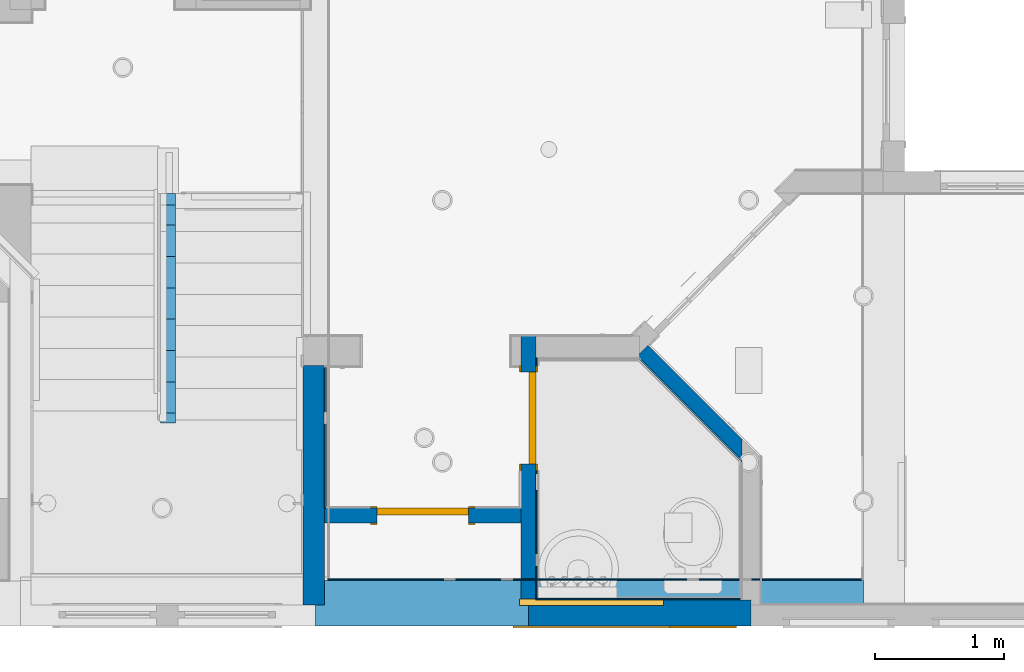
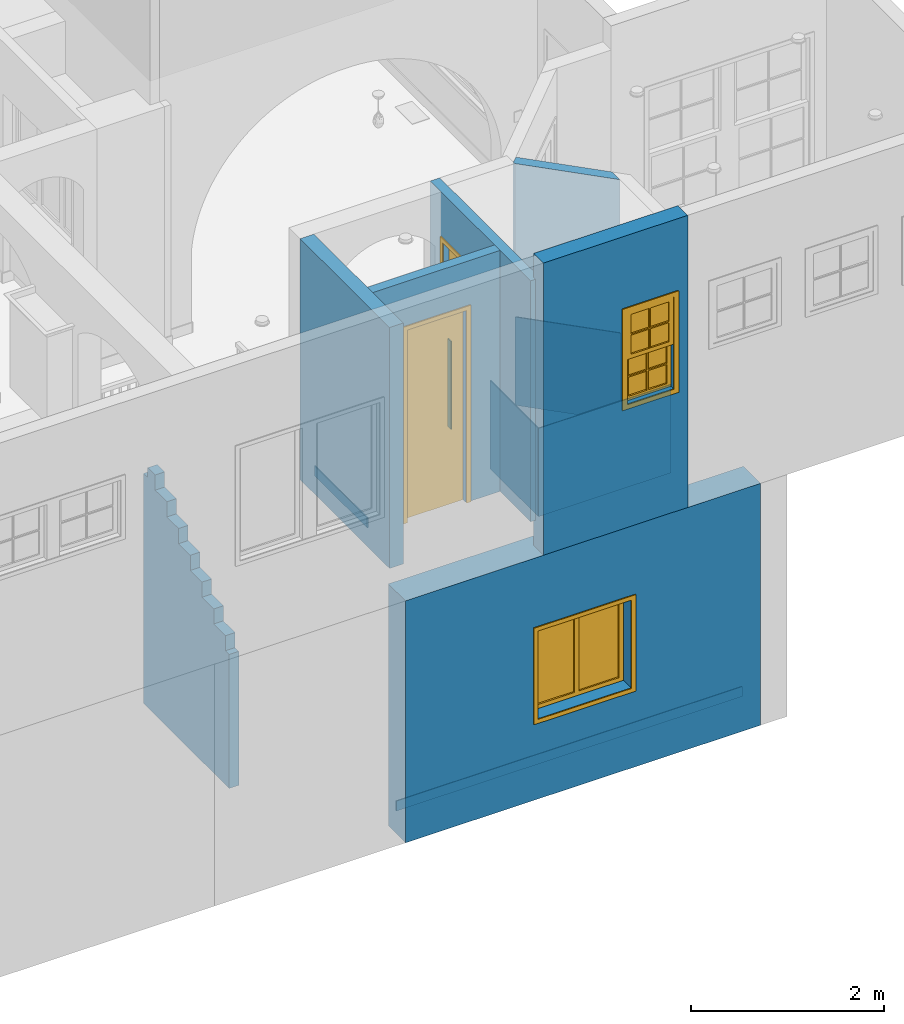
# One storey, part 5 of 81: 13 walls, 2 doors, 2 windows, 5 openings.
"""IFC2X3 building model written with IfcOpenShell, lengths in feet."""

from ifc_helpers import new_model, entity, si_unit, converted_unit, derived_unit, direction, frame, frame_2d, origin, origin_2d_with_axis, place, context, subcontext, project, spatial, polyline, rectangle, outline, extrude, clip, bounded_halfspace, source, transform, mapped, material, material_list, layer, layer_set, layer_usage, type_object, type_shapes, element, fill, save


model = new_model("IFC2X3")

# Units and contexts
model_context = context("Model", 3, precision=0.0001, world=origin(), true_north=direction((6.12303176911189e-17, 1.0)))
body_context = subcontext(model_context, "Body", "Model", "MODEL_VIEW")
ifc_project = project(units=[converted_unit("LENGTHUNIT", "FOOT", entity("IfcRatioMeasure", 0.3048), si_unit("LENGTHUNIT", "METRE"), dimensions=[1, 0, 0, 0, 0, 0, 0]), converted_unit("AREAUNIT", "SQUARE FOOT", entity("IfcRatioMeasure", 0.09290304), si_unit("AREAUNIT", "SQUARE_METRE"), dimensions=[2, 0, 0, 0, 0, 0, 0]), converted_unit("VOLUMEUNIT", "CUBIC FOOT", entity("IfcRatioMeasure", 0.028316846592), si_unit("VOLUMEUNIT", "CUBIC_METRE"), dimensions=[3, 0, 0, 0, 0, 0, 0]), converted_unit("PLANEANGLEUNIT", "DEGREE", entity("IfcRatioMeasure", 0.0174532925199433), si_unit("PLANEANGLEUNIT", "RADIAN"), dimensions=[0, 0, 0, 0, 0, 0, 0]), si_unit("MASSUNIT", "GRAM", prefix="KILO"), derived_unit("MASSDENSITYUNIT", [(si_unit("MASSUNIT", "GRAM", prefix="KILO"), 1), (si_unit("LENGTHUNIT", "METRE"), -3)]), derived_unit("MOMENTOFINERTIAUNIT", [(si_unit("LENGTHUNIT", "METRE"), 4)]), si_unit("TIMEUNIT", "SECOND"), si_unit("FREQUENCYUNIT", "HERTZ"), si_unit("THERMODYNAMICTEMPERATUREUNIT", "DEGREE_CELSIUS"), derived_unit("THERMALTRANSMITTANCEUNIT", [(si_unit("MASSUNIT", "GRAM", prefix="KILO"), 1), (si_unit("THERMODYNAMICTEMPERATUREUNIT", "KELVIN"), -1), (si_unit("TIMEUNIT", "SECOND"), -3)]), derived_unit("VOLUMETRICFLOWRATEUNIT", [(si_unit("LENGTHUNIT", "METRE"), 3), (si_unit("TIMEUNIT", "SECOND"), -1)]), si_unit("ELECTRICCURRENTUNIT", "AMPERE"), si_unit("ELECTRICVOLTAGEUNIT", "VOLT"), si_unit("POWERUNIT", "WATT"), si_unit("FORCEUNIT", "NEWTON"), si_unit("ILLUMINANCEUNIT", "LUX"), si_unit("LUMINOUSFLUXUNIT", "LUMEN"), si_unit("LUMINOUSINTENSITYUNIT", "CANDELA"), derived_unit("USERDEFINED", [(si_unit("MASSUNIT", "GRAM", prefix="KILO"), -1), (si_unit("LENGTHUNIT", "METRE"), -2), (si_unit("TIMEUNIT", "SECOND"), 3), (si_unit("LUMINOUSFLUXUNIT", "LUMEN"), 1)]), derived_unit("LINEARVELOCITYUNIT", [(si_unit("LENGTHUNIT", "METRE"), 1), (si_unit("TIMEUNIT", "SECOND"), -1)]), si_unit("PRESSUREUNIT", "PASCAL"), derived_unit("USERDEFINED", [(si_unit("LENGTHUNIT", "METRE"), -2), (si_unit("MASSUNIT", "GRAM", prefix="KILO"), 1), (si_unit("TIMEUNIT", "SECOND"), -2)]), derived_unit("LINEARFORCEUNIT", [(si_unit("MASSUNIT", "GRAM", prefix="KILO"), 1), (si_unit("LENGTHUNIT", "METRE"), 1), (si_unit("TIMEUNIT", "SECOND"), -2), (si_unit("LENGTHUNIT", "METRE"), -1)]), derived_unit("PLANARFORCEUNIT", [(si_unit("MASSUNIT", "GRAM", prefix="KILO"), 1), (si_unit("LENGTHUNIT", "METRE"), 1), (si_unit("TIMEUNIT", "SECOND"), -2), (si_unit("LENGTHUNIT", "METRE"), -2)])], contexts=[model_context])

# Site, building, storey
site_placement = place(None, origin())
site = spatial("IfcSite", under=ifc_project, at=site_placement, Name="Default", CompositionType="ELEMENT")
building_placement = place(site_placement, origin())
building = spatial("IfcBuilding", under=site, at=building_placement, CompositionType="ELEMENT")
storey_placement = place(building_placement, origin())
storey = spatial("IfcBuildingStorey", under=building, at=storey_placement, Name="First floor", CompositionType="ELEMENT", Elevation=0.0)

# Wall
ifc_material_1 = material(Name="Default New Material")
ifc_layer_1 = layer(ifc_material_1, 0.541666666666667)
ifc_layer_set_1 = layer_set([ifc_layer_1], Name="Basic Wall:Wall_6.5\"")
ifc_layer_usage_1 = layer_usage(ifc_layer_set_1, "AXIS2", "NEGATIVE", 0.270833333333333)
wall_type_1 = type_object("IfcWallType", Name="Basic Wall:Wall_6.5\"", PredefinedType="STANDARD", material=ifc_layer_set_1)
wall_1_placement = place(storey_placement, frame((20.6458333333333, 6.62500000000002, 10.6666666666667), z_axis=(0.0, 0.0, 1.0), x_axis=(0.0, -1.0, 0.0)))
element("IfcWallStandardCase", 1, at=wall_1_placement, inside=storey, type_object=wall_type_1, material=ifc_layer_usage_1, Name="Basic Wall:Wall_6.5\"", ObjectType="Basic Wall:Wall_6.5\"", context=body_context, shape_type="SweptSolid", body=[
    extrude(rectangle(XDim=6.08333333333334, YDim=0.541666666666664, at=frame_2d((3.04166666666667, 0.0), x_axis=(-1.0, 0.0))), origin(), (0.0, 0.0, 1.0), 10.0),
])

# Wall, opening, window
ifc_layer_2 = layer(ifc_material_1, 0.666666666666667)
ifc_layer_set_2 = layer_set([ifc_layer_2], Name="Basic Wall:Wall_8\"")
ifc_layer_usage_2 = layer_usage(ifc_layer_set_2, "AXIS2", "NEGATIVE", 0.333333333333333)
wall_type_2 = type_object("IfcWallType", Name="Basic Wall:Wall_8\"", PredefinedType="STANDARD", material=ifc_layer_set_2)
wall_2_placement = place(storey_placement, frame((31.7708333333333, 0.333333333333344, 9.54166666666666), z_axis=(0.0, 0.0, 1.0), x_axis=(-1.0, 0.0, 0.0)))
wall_2 = element("IfcWallStandardCase", 2, at=wall_2_placement, inside=storey, type_object=wall_type_2, material=ifc_layer_usage_2, Name="Basic Wall:Wall_8\"", ObjectType="Basic Wall:Wall_8\"", context=body_context, shape_type="SweptSolid", body=[
    extrude(rectangle(XDim=5.66666666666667, YDim=0.666666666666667, at=frame_2d((2.83333333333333, 0.0), x_axis=(-1.0, 0.0))), origin(), (0.0, 0.0, 1.0), 12.125),
])
opening_1_placement = place(wall_2_placement, frame((0.5625, -0.333333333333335, 5.125)))
opening_1 = element("IfcOpeningElement", 3, at=opening_1_placement, cuts=wall_2, Name="Window_4:1'-10\" X 3'-10\":1", ObjectType="Opening", context=body_context, shape_type="SweptSolid", body=[
    extrude(rectangle(XDim=3.83333333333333, YDim=1.83333333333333, at=frame_2d((1.91666666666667, 0.916666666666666), x_axis=(-1.0, 0.0))), frame((0.0, 0.0, 0.0), z_axis=(0.0, 1.0, 0.0), x_axis=(0.0, 0.0, 1.0)), (0.0, 0.0, 1.0), 0.666666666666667),
])
ifc_material_2 = material(Name="Glass")
ifc_material_list_1 = material_list([ifc_material_2, ifc_material_1])
ifc_material_3 = material(Name="Sash")
ifc_material_4 = material(Name="Trim")
ifc_material_list_2 = material_list([ifc_material_3, ifc_material_4, ifc_material_4, ifc_material_2])
window_style_1 = type_object("IfcWindowStyle", Name="Window_4:1'-10\" X 3'-10\"", ConstructionType="NOTDEFINED", OperationType="NOTDEFINED", ParameterTakesPrecedence=False, Sizeable=False, material=ifc_material_list_2)
shared_shape_1 = source(origin(), body_context, "Body", "SweptSolid", [
    extrude(rectangle(XDim=0.725260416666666, YDim=0.0435871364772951, at=origin_2d_with_axis()), frame((0.529296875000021, 0.584293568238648, 2.8515625)), (0.0, 0.0, 1.0), 0.815104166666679),
    extrude(rectangle(XDim=0.725260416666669, YDim=0.0435871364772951, at=frame_2d((5.55111512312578e-17, 0.0), x_axis=(1.0, 0.0))), frame((1.30403645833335, 0.584293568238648, 2.8515625)), (0.0, 0.0, 1.0), 0.815104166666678),
    extrude(rectangle(XDim=0.725260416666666, YDim=0.0435871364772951, at=origin_2d_with_axis()), frame((0.529296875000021, 0.584293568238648, 2.01041666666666)), (0.0, 0.0, 1.0), 0.791666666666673),
    extrude(rectangle(XDim=0.72526041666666, YDim=0.0435871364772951, at=origin_2d_with_axis()), frame((1.30403645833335, 0.584293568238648, 2.01041666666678)), (0.0, 0.0, 1.0), 0.791666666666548),
    extrude(outline(polyline([(-0.916666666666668, -0.994791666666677), (0.916666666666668, -0.994791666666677), (0.916666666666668, 0.994791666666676), (-0.916666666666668, 0.994791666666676), (-0.916666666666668, -0.994791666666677)]), holes=[polyline([(0.0247395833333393, -0.828125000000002), (0.0247395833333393, -0.0130208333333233), (0.750000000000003, -0.0130208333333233), (0.750000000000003, -0.828125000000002), (0.0247395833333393, -0.828125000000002)]), polyline([(0.0247395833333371, 0.828125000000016), (0.750000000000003, 0.828125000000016), (0.750000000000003, 0.0364583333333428), (0.0247395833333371, 0.0364583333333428), (0.0247395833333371, 0.828125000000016)]), polyline([(-0.74999999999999, -0.0130208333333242), (-0.0247395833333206, -0.0130208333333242), (-0.0247395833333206, -0.828125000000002), (-0.74999999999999, -0.828125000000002), (-0.74999999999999, -0.0130208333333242)]), polyline([(-0.74999999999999, 0.828124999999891), (-0.0247395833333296, 0.828124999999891), (-0.0247395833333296, 0.0364583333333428), (-0.74999999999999, 0.0364583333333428), (-0.74999999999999, 0.828124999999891)])]), frame((0.916666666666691, 0.666666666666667, 2.83854166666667), z_axis=(0.0, -1.0, 0.0), x_axis=(-1.0, 0.0, 0.0)), (0.0, 0.0, 1.0), 0.166666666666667),
    extrude(rectangle(XDim=0.72526041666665, YDim=0.0416666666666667, at=frame_2d((0.0, 1.38777878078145e-17), x_axis=(1.0, 0.0))), frame((1.30403645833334, 0.416666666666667, 0.166666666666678), z_axis=(0.0, 0.0, 1.0), x_axis=(-1.0, 0.0, 0.0)), (0.0, 0.0, 1.0), 0.791666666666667),
    extrude(rectangle(XDim=0.725260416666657, YDim=0.0416666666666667, at=frame_2d((0.0, 1.38777878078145e-17), x_axis=(1.0, 0.0))), frame((0.52929687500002, 0.416666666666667, 1.00781250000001), z_axis=(0.0, 0.0, 1.0), x_axis=(-1.0, 0.0, 0.0)), (0.0, 0.0, 1.0), 0.835937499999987),
    extrude(rectangle(XDim=0.725260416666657, YDim=0.0416666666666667, at=frame_2d((0.0, 1.38777878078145e-17), x_axis=(1.0, 0.0))), frame((0.52929687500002, 0.416666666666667, 0.166666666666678), z_axis=(0.0, 0.0, 1.0), x_axis=(-1.0, 0.0, 0.0)), (0.0, 0.0, 1.0), 0.791666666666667),
    extrude(rectangle(XDim=0.72526041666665, YDim=0.0416666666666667, at=frame_2d((0.0, 1.38777878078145e-17), x_axis=(1.0, 0.0))), frame((1.30403645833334, 0.416666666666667, 1.00781250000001), z_axis=(0.0, 0.0, 1.0), x_axis=(-1.0, 0.0, 0.0)), (0.0, 0.0, 1.0), 0.835937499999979),
    extrude(outline(polyline([(-0.91666666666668, -1.00520833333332), (0.91666666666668, -1.00520833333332), (0.91666666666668, 1.00520833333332), (-0.91666666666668, 1.00520833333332), (-0.91666666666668, -1.00520833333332)]), holes=[polyline([(-0.749999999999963, -0.0026041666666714), (-0.0247395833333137, -0.0026041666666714), (-0.0247395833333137, -0.83854166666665), (-0.749999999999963, -0.83854166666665), (-0.749999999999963, -0.0026041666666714)]), polyline([(0.0247395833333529, 0.838541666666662), (0.75000000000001, 0.838541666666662), (0.75000000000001, 0.0468749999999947), (0.0247395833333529, 0.0468749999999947), (0.0247395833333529, 0.838541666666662)]), polyline([(-0.749999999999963, 0.838541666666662), (-0.0247395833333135, 0.838541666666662), (-0.0247395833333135, 0.0468749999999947), (-0.749999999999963, 0.0468749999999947), (-0.749999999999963, 0.838541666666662)]), polyline([(0.0247395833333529, -0.83854166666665), (0.0247395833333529, -0.00260416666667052), (0.75000000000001, -0.00260416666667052), (0.75000000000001, -0.83854166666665), (0.0247395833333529, -0.83854166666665)])]), frame((0.916666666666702, 0.5, 1.00520833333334), z_axis=(0.0, -1.0, 0.0), x_axis=(-1.0, 0.0, 0.0)), (0.0, 0.0, 1.0), 0.166666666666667),
    extrude(outline(polyline([(-1.10416666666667, -2.10416666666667), (1.10416666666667, -2.10416666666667), (1.10416666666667, 2.10416666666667), (-1.10416666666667, 2.10416666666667), (-1.10416666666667, -2.10416666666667)]), holes=[polyline([(-0.916666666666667, -1.91666666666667), (-0.916666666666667, 1.91666666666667), (0.916666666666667, 1.91666666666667), (0.916666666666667, -1.91666666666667), (-0.916666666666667, -1.91666666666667)])]), frame((0.916666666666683, 0.0, 1.91666666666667), z_axis=(0.0, -1.0, 0.0), x_axis=(1.0, 0.0, 0.0)), (0.0, 0.0, 1.0), 0.0416666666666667),
    extrude(outline(polyline([(-1.10416666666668, -2.10416666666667), (1.10416666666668, -2.10416666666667), (1.10416666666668, 2.10416666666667), (-1.10416666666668, 2.10416666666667), (-1.10416666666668, -2.10416666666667)]), holes=[polyline([(-0.916666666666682, -1.91666666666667), (-0.916666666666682, 1.91666666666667), (0.916666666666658, 1.91666666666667), (0.916666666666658, -1.91666666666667), (-0.916666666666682, -1.91666666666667)])]), frame((0.916666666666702, 0.708333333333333, 1.91666666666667), z_axis=(0.0, -1.0, 0.0), x_axis=(1.0, 0.0, 0.0)), (0.0, 0.0, 1.0), 0.0416666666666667),
])
type_shapes(window_style_1, [shared_shape_1])
window_1_placement = place(opening_1_placement, origin())
window_1 = element("IfcWindow", 4, at=window_1_placement, inside=storey, type_object=window_style_1, material=ifc_material_list_1, Name="Window_4:1'-10\" X 3'-10\"", ObjectType="Window_4:1'-10\" X 3'-10\"", OverallHeight=3.83333333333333, OverallWidth=1.83333333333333, context=body_context, shape_type="MappedRepresentation", body=[
    mapped(shared_shape_1, transform((0.0, 0.0, 0.0), scale=1.0)),
])
fill(opening_1, window_1)

# Wall
ifc_layer_3 = layer(ifc_material_1, 0.375)
ifc_layer_set_3 = layer_set([ifc_layer_3], Name="Basic Wall:Wall_4.5\"")
ifc_layer_usage_3 = layer_usage(ifc_layer_set_3, "AXIS2", "NEGATIVE", 0.1875)
wall_type_3 = type_object("IfcWallType", Name="Basic Wall:Wall_4.5\"", PredefinedType="STANDARD", material=ifc_layer_set_3)
wall_3_placement = place(storey_placement, frame((29.0138879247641, 7.01261369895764, 10.6666666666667), z_axis=(0.0, 0.0, 1.0), x_axis=(0.707106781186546, -0.707106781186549, 0.0)))
element("IfcWallStandardCase", 5, at=wall_3_placement, inside=storey, type_object=wall_type_3, material=ifc_layer_usage_3, Name="Basic Wall:Wall_4.5\"", ObjectType="Basic Wall:Wall_4.5\"", context=body_context, shape_type="Clipping", body=[
    clip(clip(clip(extrude(outline(polyline([(3.38731897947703, 0.1875), (0.0, 0.1875), (0.000817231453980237, -0.0982175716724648), (-0.023173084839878, -0.0982861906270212), (0.0660407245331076, -0.187500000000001), (0.124966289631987, -0.1875), (3.76231897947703, -0.1875), (3.38731897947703, 0.1875)])), origin(), (0.0, 0.0, 1.0), 10.0), bounded_halfspace(frame((0.000817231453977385, -0.0982175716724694, 0.0), z_axis=(0.999995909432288, 0.00286026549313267, 0.0), x_axis=(-0.00286026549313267, 0.999995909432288, 0.0)), True, frame((0.000817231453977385, -0.0982175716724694, 0.0), z_axis=(0.999995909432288, 0.00286026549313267, 0.0), x_axis=(-0.00286026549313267, 0.999995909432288, 0.0)), polyline([(0.0, 0.0), (0.285718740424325, 0.0), (0.285718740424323, 10.0), (0.0, 10.0), (0.0, 0.0)]))), bounded_halfspace(frame((0.000817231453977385, -0.0982175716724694, 10.0), z_axis=(0.00286026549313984, -0.999995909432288, 0.0), x_axis=(0.999995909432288, 0.00286026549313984, 0.0)), True, frame((0.000817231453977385, -0.0982175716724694, 10.0), z_axis=(0.00286026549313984, -0.999995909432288, 0.0), x_axis=(0.999995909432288, 0.00286026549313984, 0.0)), polyline([(0.0, 0.0), (-0.0239904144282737, 0.0), (-0.0239904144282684, -10.0), (0.0, -10.0), (0.0, 0.0)]))), bounded_halfspace(frame((0.0660407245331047, -0.187499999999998, 0.0), z_axis=(0.707106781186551, 0.707106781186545, 0.0), x_axis=(-0.707106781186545, 0.707106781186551, 0.0)), True, frame((0.0660407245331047, -0.187499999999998, 0.0), z_axis=(0.707106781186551, 0.707106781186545, 0.0), x_axis=(-0.707106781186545, 0.707106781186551, 0.0)), polyline([(0.0, 0.0), (0.126167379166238, 0.0), (0.126167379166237, 10.0), (0.0, 10.0), (0.0, 0.0)]))),
])

# Wall, opening, door
ifc_layer_usage_4 = layer_usage(ifc_layer_set_3, "AXIS2", "POSITIVE", -0.1875)
wall_4_placement = place(storey_placement, frame((26.1041666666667, 0.541666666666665, 10.6666666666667), z_axis=(0.0, 0.0, 1.0), x_axis=(0.0, 1.0, 0.0)))
wall_4 = element("IfcWallStandardCase", 6, at=wall_4_placement, inside=storey, type_object=wall_type_3, material=ifc_layer_usage_4, Name="Basic Wall:Wall_4.5\"", ObjectType="Basic Wall:Wall_4.5\"", context=body_context, shape_type="SweptSolid", body=[
    extrude(outline(polyline([(0.125000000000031, -0.1875), (6.29166666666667, -0.187500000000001), (6.83333333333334, -0.1875), (6.83333333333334, 0.1875), (6.08333333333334, 0.187499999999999), (2.45833333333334, 0.1875), (2.08333333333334, 0.1875), (0.0, 0.1875), (0.0, 0.0), (0.12500000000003, 0.0), (0.125000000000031, -0.1875)])), origin(), (0.0, 0.0, 1.0), 10.0),
])
opening_2_placement = place(wall_4_placement, frame((5.91666666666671, 0.187499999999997, 0.0)))
opening_2 = element("IfcOpeningElement", 7, at=opening_2_placement, cuts=wall_4, Name="Door_1:2'-4\" X 8'-0\":1", ObjectType="Opening", context=body_context, shape_type="SweptSolid", body=[
    extrude(rectangle(XDim=2.33333333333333, YDim=8.0, at=frame_2d((4.0, 1.16666666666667), x_axis=(0.0, -1.0))), frame((0.0, 0.0, 0.0), z_axis=(0.0, -1.0, 0.0), x_axis=(0.0, 0.0, 1.0)), (0.0, 0.0, 1.0), 0.375),
])
ifc_material_list_3 = material_list([ifc_material_1, ifc_material_1])
door_style = type_object("IfcDoorStyle", Name="Door_1:2'-4\" X 8'-0\"", ConstructionType="NOTDEFINED", OperationType="SINGLE_SWING_LEFT", ParameterTakesPrecedence=False, Sizeable=False, material=ifc_material_list_3)
shared_shape_2 = source(origin(), body_context, "Body", "SweptSolid", [
    extrude(outline(polyline([(-1.33333333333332, -4.125), (1.3333333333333, -4.125), (1.3333333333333, 4.04166666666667), (1.16666666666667, 4.04166666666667), (1.16666666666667, -3.95833333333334), (-1.16666666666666, -3.95833333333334), (-1.16666666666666, 4.04166666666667), (-1.33333333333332, 4.04166666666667), (-1.33333333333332, -4.125)])), frame((1.16666666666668, 0.416666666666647, 4.04166666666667), z_axis=(0.0, -1.0, 0.0), x_axis=(-1.0, 0.0, 0.0)), (0.0, 0.0, 1.0), 0.0416666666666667),
    extrude(outline(polyline([(-4.125, -1.33333333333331), (4.04166666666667, -1.33333333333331), (4.04166666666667, -1.16666666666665), (-3.95833333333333, -1.16666666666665), (-3.95833333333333, 1.16666666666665), (4.04166666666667, 1.16666666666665), (4.04166666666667, 1.33333333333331), (-4.125, 1.33333333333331), (-4.125, -1.33333333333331)])), frame((1.16666666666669, 0.0, 4.04166666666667), z_axis=(0.0, -1.0, 0.0), x_axis=(0.0, 0.0, -1.0)), (0.0, 0.0, 1.0), 0.0416666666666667),
    extrude(rectangle(XDim=2.33333333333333, YDim=0.166666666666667, at=origin_2d_with_axis()), frame((1.16666666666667, 0.291666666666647, 0.0)), (0.0, 0.0, 1.0), 8.0),
])
type_shapes(door_style, [shared_shape_2])
door_1_placement = place(opening_2_placement, frame((0.0, 0.0, 0.0), z_axis=(0.0, 0.0, 1.0), x_axis=(-1.0, 0.0, 0.0)))
door_1 = element("IfcDoor", 8, at=door_1_placement, inside=storey, type_object=door_style, material=ifc_material_1, Name="Door_1:2'-4\" X 8'-0\"", ObjectType="Door_1:2'-4\" X 8'-0\"", OverallHeight=8.0, OverallWidth=2.33333333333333, context=body_context, shape_type="MappedRepresentation", body=[
    mapped(shared_shape_2, transform((0.0, 0.0, 0.0), scale=1.0)),
])
fill(opening_2, door_1)

ifc_layer_usage_5 = layer_usage(ifc_layer_set_3, "AXIS2", "NEGATIVE", 0.1875)
wall_5_placement = place(storey_placement, frame((25.9166666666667, 2.8125, 10.6666666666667), z_axis=(0.0, 0.0, 1.0), x_axis=(-1.0, 0.0, 0.0)))
wall_5 = element("IfcWallStandardCase", 9, at=wall_5_placement, inside=storey, type_object=wall_type_3, material=ifc_layer_usage_5, Name="Basic Wall:Wall_4.5\"", ObjectType="Basic Wall:Wall_4.5\"", context=body_context, shape_type="SweptSolid", body=[
    extrude(rectangle(XDim=5.0, YDim=0.375, at=frame_2d((2.5, 0.0), x_axis=(-1.0, 0.0))), origin(), (0.0, 0.0, 1.0), 10.0),
])
opening_3_placement = place(wall_5_placement, frame((3.66666666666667, 0.187499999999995, 0.0)))
opening_3 = element("IfcOpeningElement", 10, at=opening_3_placement, cuts=wall_5, Name="Door_1:2'-4\" X 8'-0\":1", ObjectType="Opening", context=body_context, shape_type="SweptSolid", body=[
    extrude(rectangle(XDim=2.33333333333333, YDim=8.0, at=frame_2d((4.0, 1.16666666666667), x_axis=(0.0, -1.0))), frame((0.0, 0.0, 0.0), z_axis=(0.0, -1.0, 0.0), x_axis=(0.0, 0.0, 1.0)), (0.0, 0.0, 1.0), 0.375),
])
door_2_placement = place(opening_3_placement, frame((0.0, 0.0, 0.0), z_axis=(0.0, 0.0, 1.0), x_axis=(-1.0, 0.0, 0.0)))
door_2 = element("IfcDoor", 11, at=door_2_placement, inside=storey, type_object=door_style, material=ifc_material_1, Name="Door_1:2'-4\" X 8'-0\"", ObjectType="Door_1:2'-4\" X 8'-0\"", OverallHeight=8.0, OverallWidth=2.33333333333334, context=body_context, shape_type="MappedRepresentation", body=[
    mapped(shared_shape_2, transform((0.0, 0.0, 0.0), scale=1.0)),
])
fill(opening_3, door_2)

# Wall, opening
ifc_layer_usage_6 = layer_usage(ifc_layer_set_3, "AXIS2", "NEGATIVE", 0.1875)
wall_6_placement = place(storey_placement, frame((16.9375, 11.0, 0.0), z_axis=(0.0, 0.0, 1.0), x_axis=(0.0, -1.0, 0.0)))
wall_6 = element("IfcWallStandardCase", 12, at=wall_6_placement, inside=storey, type_object=wall_type_3, material=ifc_layer_usage_6, Name="Basic Wall:Wall_4.5\"", ObjectType="Basic Wall:Wall_4.5\"", context=body_context, shape_type="Clipping", body=[
    clip(clip(extrude(rectangle(XDim=5.83333333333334, YDim=0.375, at=frame_2d((2.91666666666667, 0.0), x_axis=(-1.0, 0.0))), origin(), (0.0, 0.0, 1.0), 9.95833333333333), bounded_halfspace(frame((0.291666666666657, -0.187500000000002, 9.54166666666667), z_axis=(0.0, 0.0, -1.0), x_axis=(-1.0, 0.0, 0.0)), True, frame((0.291666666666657, -0.187500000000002, 9.54166666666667), z_axis=(0.0, 0.0, -1.0), x_axis=(-1.0, 0.0, 0.0)), polyline([(0.0, 0.0), (0.291666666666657, 0.0), (0.291666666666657, 0.375000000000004), (0.0, 0.375), (0.0, 0.0)]))), bounded_halfspace(frame((0.291666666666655, 0.187499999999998, 9.54166666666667), z_axis=(1.0, 0.0, 0.0), x_axis=(0.0, 0.0, 1.0)), True, frame((0.291666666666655, 0.187499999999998, 9.54166666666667), z_axis=(1.0, 0.0, 0.0), x_axis=(0.0, 0.0, 1.0)), polyline([(0.0, 0.0), (0.416666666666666, 0.0), (0.416666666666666, 0.374999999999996), (0.0, 0.375), (0.0, 0.0)]))),
])
opening_4_placement = place(wall_6_placement, origin())
element("IfcOpeningElement", 13, at=opening_4_placement, cuts=wall_6, Name="Basic Wall:Wall_4.5\"", ObjectType="Opening", context=body_context, shape_type="SweptSolid", body=[
    extrude(outline(polyline([(-2.32099780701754, -2.30262163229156), (-2.32099780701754, -2.38595496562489), (-2.32099780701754, -2.55262179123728), (2.15556469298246, -2.55262179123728), (2.15556469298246, 3.11395189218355), (2.07223135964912, 3.11395189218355), (2.07223135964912, 2.48309251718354), (1.44462719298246, 2.48309251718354), (1.44462719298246, 1.68547341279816), (0.817023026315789, 1.68547341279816), (0.817023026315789, 0.887854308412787), (0.189418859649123, 0.887854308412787), (0.189418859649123, 0.0902354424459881), (-0.438185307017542, 0.0902354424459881), (-0.438185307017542, -0.707383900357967), (-1.06578947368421, -0.707383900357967), (-1.06578947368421, -1.50500276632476), (-1.69339364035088, -1.50500276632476), (-1.69339364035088, -2.30262163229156), (-2.32099780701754, -2.30262163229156)])), frame((3.28071154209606, -0.187500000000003, 7.88610197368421), z_axis=(0.0, -1.0, 0.0), x_axis=(0.0, 0.0, 1.0)), (0.0, 0.0, -1.0), 0.375),
])

# Wall, opening, window
ifc_layer_4 = layer(ifc_material_1, 1.16666666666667)
ifc_layer_set_4 = layer_set([ifc_layer_4], Name="Basic Wall:Wall_1'2\"")
ifc_layer_usage_7 = layer_usage(ifc_layer_set_4, "AXIS2", "NEGATIVE", 0.583333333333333)
wall_type_4 = type_object("IfcWallType", Name="Basic Wall:Wall_1'2\"", PredefinedType="STANDARD", material=ifc_layer_set_4)
wall_7_placement = place(storey_placement, frame((34.6249999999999, 0.583333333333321, -0.5), z_axis=(0.0, 0.0, 1.0), x_axis=(-1.0, 0.0, 0.0)))
wall_7 = element("IfcWallStandardCase", 14, at=wall_7_placement, inside=storey, type_object=wall_type_4, material=ifc_layer_usage_7, Name="Basic Wall:Wall_1'2\"", ObjectType="Basic Wall:Wall_1'2\"", context=body_context, shape_type="SweptSolid", body=[
    extrude(rectangle(XDim=13.9375, YDim=1.16666666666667, at=frame_2d((6.96874999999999, 0.0), x_axis=(-1.0, 0.0))), origin(), (0.0, 0.0, 1.0), 10.0416666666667),
])
opening_5_placement = place(wall_7_placement, frame((8.74999999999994, 0.583333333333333, 3.33333333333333)))
opening_5 = element("IfcOpeningElement", 15, at=opening_5_placement, cuts=wall_7, Name="Window_6:3'-8\" X 3'-8\":1", ObjectType="Opening", context=body_context, shape_type="SweptSolid", body=[
    extrude(rectangle(XDim=3.66666666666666, YDim=3.66666666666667, at=frame_2d((1.83333333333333, 1.83333333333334), x_axis=(-1.0, 0.0))), frame((0.0, 0.0, 0.0), z_axis=(0.0, -1.0, 0.0), x_axis=(0.0, 0.0, 1.0)), (0.0, 0.0, 1.0), 1.16666666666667),
])
ifc_material_list_4 = material_list([ifc_material_2, ifc_material_1])
ifc_material_list_5 = material_list([ifc_material_2, ifc_material_1, ifc_material_1])
window_style_2 = type_object("IfcWindowStyle", Name="Window_6:3'-8\" X 3'-8\"", ConstructionType="NOTDEFINED", OperationType="NOTDEFINED", ParameterTakesPrecedence=False, Sizeable=False, material=ifc_material_list_5)
shared_shape_3 = source(origin(), body_context, "Body", "SweptSolid", [
    extrude(rectangle(XDim=1.58333333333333, YDim=0.0416666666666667, at=frame_2d((1.11022302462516e-16, 0.0), x_axis=(1.0, 0.0))), frame((2.62500000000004, 0.604166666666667, 0.166666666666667)), (0.0, 0.0, 1.0), 3.33333333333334),
    extrude(rectangle(XDim=1.58333333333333, YDim=0.0416666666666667, at=origin_2d_with_axis()), frame((0.875000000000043, 0.604166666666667, 0.166666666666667)), (0.0, 0.0, 1.0), 3.33333333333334),
    extrude(outline(polyline([(-1.83333333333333, -1.83333333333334), (1.83333333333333, -1.83333333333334), (1.83333333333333, 1.83333333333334), (-1.83333333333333, 1.83333333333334), (-1.83333333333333, -1.83333333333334)]), holes=[polyline([(-1.66666666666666, 1.66666666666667), (-0.0833333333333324, 1.66666666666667), (-0.0833333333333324, -1.66666666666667), (-1.66666666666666, -1.66666666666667), (-1.66666666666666, 1.66666666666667)]), polyline([(0.0833333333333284, -1.66666666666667), (0.0833333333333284, 1.66666666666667), (1.66666666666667, 1.66666666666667), (1.66666666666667, -1.66666666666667), (0.0833333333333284, -1.66666666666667)])]), frame((1.75000000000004, 0.6875, 1.83333333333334), z_axis=(0.0, -1.0, 0.0), x_axis=(-1.0, 0.0, 0.0)), (0.0, 0.0, 1.0), 0.166666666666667),
    extrude(outline(polyline([(-2.0, -2.0), (2.0, -2.0), (2.0, 2.0), (-2.0, 2.0), (-2.0, -2.0)]), holes=[polyline([(-1.83333333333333, -1.83333333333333), (-1.83333333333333, 1.83333333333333), (1.83333333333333, 1.83333333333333), (1.83333333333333, -1.83333333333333), (-1.83333333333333, -1.83333333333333)])]), frame((1.75000000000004, 1.20833333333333, 1.83333333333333), z_axis=(0.0, -1.0, 0.0), x_axis=(-1.0, 0.0, 0.0)), (0.0, 0.0, 1.0), 0.0416666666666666),
    extrude(outline(polyline([(-2.0, -2.0), (2.0, -2.0), (2.0, 2.0), (-2.0, 2.0), (-2.0, -2.0)]), holes=[polyline([(1.83333333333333, 1.83333333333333), (1.83333333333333, -1.83333333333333), (-1.83333333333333, -1.83333333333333), (-1.83333333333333, 1.83333333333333), (1.83333333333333, 1.83333333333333)])]), frame((1.75000000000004, 0.0, 1.83333333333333), z_axis=(0.0, -1.0, 0.0), x_axis=(-1.0, 0.0, 0.0)), (0.0, 0.0, 1.0), 0.0416666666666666),
])
type_shapes(window_style_2, [shared_shape_3])
window_2_placement = place(opening_5_placement, frame((-0.0833333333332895, 0.0, 0.0), z_axis=(0.0, 0.0, 1.0), x_axis=(-1.0, 0.0, 0.0)))
window_2 = element("IfcWindow", 16, at=window_2_placement, inside=storey, type_object=window_style_2, material=ifc_material_list_4, Name="Window_6:3'-8\" X 3'-8\"", ObjectType="Window_6:3'-8\" X 3'-8\"", OverallHeight=3.66666666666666, OverallWidth=3.66666666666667, context=body_context, shape_type="MappedRepresentation", body=[
    mapped(shared_shape_3, transform((0.0, 0.0, 0.0), scale=1.0)),
])
fill(opening_5, window_2)

# Walls
ifc_layer_5 = layer(ifc_material_1, 0.0416666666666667)
ifc_layer_set_5 = layer_set([ifc_layer_5], Name="Basic Wall:Wall Border_T1")
ifc_layer_usage_8 = layer_usage(ifc_layer_set_5, "AXIS2", "POSITIVE", -0.0208333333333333)
wall_type_5 = type_object("IfcWallType", Name="Basic Wall:Wall Border_T1", PredefinedType="STANDARD", material=ifc_layer_set_5)
wall_8_placement = place(storey_placement, frame((34.5833333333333, 1.18749999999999, 0.0), z_axis=(0.0, 0.0, 1.0), x_axis=(-1.0, 0.0, 0.0)))
element("IfcWallStandardCase", 17, at=wall_8_placement, inside=storey, type_object=wall_type_5, material=ifc_layer_usage_8, Name="Basic Wall:Wall Border_T1", ObjectType="Basic Wall:Wall Border_T1", context=body_context, shape_type="SweptSolid", body=[
    extrude(rectangle(XDim=13.5833333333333, YDim=0.0416666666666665, at=frame_2d((6.79166666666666, 4.33680868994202e-17), x_axis=(-1.0, 0.0))), origin(), (0.0, 0.0, 1.0), 0.416666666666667),
])
ifc_layer_usage_9 = layer_usage(ifc_layer_set_5, "AXIS2", "NEGATIVE", 0.0208333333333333)
wall_9_placement = place(storey_placement, frame((20.9374999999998, 6.58333333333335, 10.6666666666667), z_axis=(0.0, 0.0, 1.0), x_axis=(0.0, -1.0, 0.0)))
element("IfcWallStandardCase", 18, at=wall_9_placement, inside=storey, type_object=wall_type_5, material=ifc_layer_usage_9, Name="Basic Wall:Wall Border_T1", ObjectType="Basic Wall:Wall Border_T1", context=body_context, shape_type="SweptSolid", body=[
    extrude(rectangle(XDim=3.58333333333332, YDim=0.0416666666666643, at=frame_2d((1.79166666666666, 5.04804531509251e-16), x_axis=(-1.0, 0.0))), origin(), (0.0, 0.0, 1.0), 0.416666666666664),
])
ifc_layer_usage_10 = layer_usage(ifc_layer_set_5, "AXIS2", "POSITIVE", -0.0208333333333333)
wall_10_placement = place(storey_placement, frame((26.3125, 6.62500000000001, 10.6666666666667), z_axis=(0.0, 0.0, 1.0), x_axis=(0.0, 1.0, 0.0)))
element("IfcWallStandardCase", 19, at=wall_10_placement, inside=storey, type_object=wall_type_5, material=ifc_layer_usage_10, Name="Basic Wall:Wall Border_T1", ObjectType="Basic Wall:Wall Border_T1", context=body_context, shape_type="SweptSolid", body=[
    extrude(rectangle(XDim=0.208333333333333, YDim=0.0416666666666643, at=frame_2d((0.104166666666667, 0.0), x_axis=(-1.0, 0.0))), origin(), (0.0, 0.0, 1.0), 3.66666666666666),
])
ifc_layer_usage_11 = layer_usage(ifc_layer_set_5, "AXIS2", "POSITIVE", -0.0208333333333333)
wall_11_placement = place(storey_placement, frame((28.925475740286, 6.80639805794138, 10.6666666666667), z_axis=(0.0, 0.0, 1.0), x_axis=(0.707106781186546, -0.707106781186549, 0.0)))
element("IfcWallStandardCase", 20, at=wall_11_placement, inside=storey, type_object=wall_type_5, material=ifc_layer_usage_11, Name="Basic Wall:Wall Border_T1", ObjectType="Basic Wall:Wall Border_T1", context=body_context, shape_type="SweptSolid", body=[
    extrude(outline(polyline([(3.72068602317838, -0.0208333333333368), (3.67901935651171, 0.0208333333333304), (0.0416666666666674, 0.0208333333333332), (0.0, -0.0208333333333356), (3.72068602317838, -0.0208333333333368)])), origin(), (0.0, 0.0, 1.0), 3.66666666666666),
])
ifc_layer_usage_12 = layer_usage(ifc_layer_set_5, "AXIS2", "POSITIVE", -0.0208333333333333)
wall_12_placement = place(storey_placement, frame((31.5, 0.687500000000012, 10.6666666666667), z_axis=(0.0, 0.0, 1.0), x_axis=(-1.0, 0.0, 0.0)))
element("IfcWallStandardCase", 21, at=wall_12_placement, inside=storey, type_object=wall_type_5, material=ifc_layer_usage_12, Name="Basic Wall:Wall Border_T1", ObjectType="Basic Wall:Wall Border_T1", context=body_context, shape_type="SweptSolid", body=[
    extrude(rectangle(XDim=5.20833333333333, YDim=0.0416666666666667, at=frame_2d((2.60416666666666, 0.0), x_axis=(-1.0, 0.0))), origin(), (0.0, 0.0, 1.0), 3.66666666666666),
])
ifc_layer_usage_13 = layer_usage(ifc_layer_set_5, "AXIS2", "POSITIVE", -0.0208333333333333)
wall_13_placement = place(storey_placement, frame((26.3125, 0.708333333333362, 10.6666666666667), z_axis=(0.0, 0.0, 1.0), x_axis=(0.0, 1.0, 0.0)))
element("IfcWallStandardCase", 22, at=wall_13_placement, inside=storey, type_object=wall_type_5, material=ifc_layer_usage_13, Name="Basic Wall:Wall Border_T1", ObjectType="Basic Wall:Wall Border_T1", context=body_context, shape_type="SweptSolid", body=[
    extrude(rectangle(XDim=3.25000000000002, YDim=0.0416666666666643, at=frame_2d((1.62500000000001, -1.21430643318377e-17), x_axis=(-1.0, 0.0))), origin(), (0.0, 0.0, 1.0), 3.66666666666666),
])

save(model, "model.ifc")
